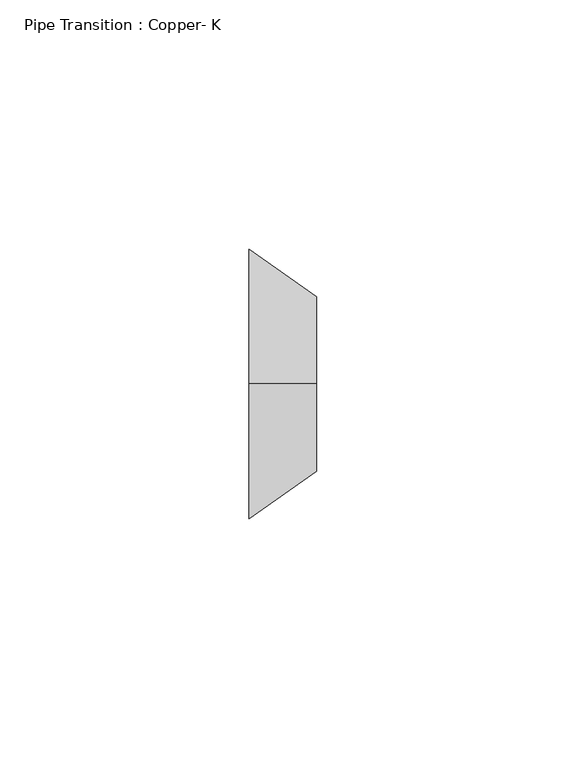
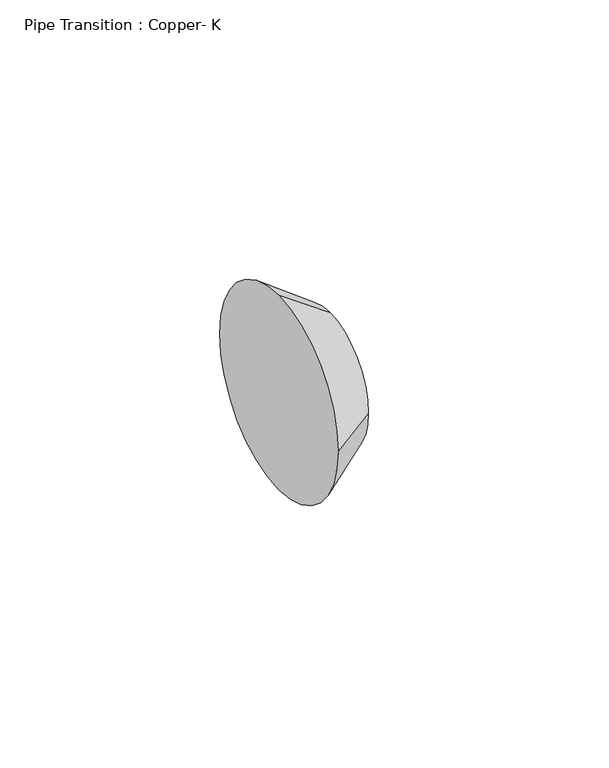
"""IFC4 building model written with IfcOpenShell, lengths in millimetres: pipe fitting geometry, Pipe Transition : Copper- K."""

from ifc_helpers import new_model, si_unit, frame, origin, place, context, project, spatial, circle_curve, source, transform, mapped, element, save
from ifc_brep_helpers import plane_surface, spline_surface, advanced_brep


def pipe_transition_copper_k_dc0697be(model_context):
    return source(origin(), model_context, "Body", "AdvancedBrep", [
        advanced_brep(
        [(13.49375, 0.0, 17.5121146), (13.49375, -17.4625, 0.0496146), (13.49375, 0.0, -17.4128854), (13.49375, 17.4625, 0.0496146), (0.0, 0.0, 26.9875), (0.0, 26.9875, 0.0), (0.0, 0.0, -26.9875), (0.0, -26.9875, 0.0)],
        [
            (0, 1, circle_curve(frame((13.49375, 0.0, 0.0496146), z_axis=(1.0, 0.0, 0.0), x_axis=(0.0, 1.0, 0.0)), 17.4625)),
            (1, 2, circle_curve(frame((13.49375, 0.0, 0.0496146), z_axis=(1.0, 0.0, 0.0), x_axis=(0.0, 1.0, 0.0)), 17.4625)),
            (2, 3, circle_curve(frame((13.49375, 0.0, 0.0496146), z_axis=(1.0, 0.0, 0.0), x_axis=(0.0, 1.0, 0.0)), 17.4625)),
            (3, 0, circle_curve(frame((13.49375, 0.0, 0.0496146), z_axis=(1.0, 0.0, 0.0), x_axis=(0.0, 1.0, 0.0)), 17.4625)),
            (4, 5, circle_curve(frame((0.0, 0.0, 0.0), z_axis=(-1.0, 0.0, 0.0), x_axis=(0.0, 1.0, 0.0)), 26.9875)),
            (5, 6, circle_curve(frame((0.0, 0.0, 0.0), z_axis=(-1.0, 0.0, 0.0), x_axis=(0.0, 1.0, 0.0)), 26.9875)),
            (6, 7, circle_curve(frame((0.0, 0.0, 0.0), z_axis=(-1.0, 0.0, 0.0), x_axis=(0.0, 1.0, 0.0)), 26.9875)),
            (7, 4, circle_curve(frame((0.0, 0.0, 0.0), z_axis=(-1.0, 0.0, 0.0), x_axis=(0.0, 1.0, 0.0)), 26.9875)),
            (7, 1),
            (0, 4),
            (6, 2),
            (5, 3),
        ],
        [
            plane_surface(frame((13.49375, 0.0, 0.0496146), z_axis=(1.0, 0.0, 0.0), x_axis=(0.0, -1.0, 0.0))),
            plane_surface(frame((0.0, 0.0, 0.0), z_axis=(-1.0, 0.0, 0.0), x_axis=(0.0, -1.0, 0.0))),
            spline_surface(2, 1, [[(0.0, 0.0, 26.9875), (13.49375, 0.0, 17.5121146)], [(0.0, -26.9875, 26.9875), (13.49375, -17.4625, 17.5121146)], [(0.0, -26.9875, 0.0), (13.49375, -17.4625, 0.0496146)]], [3, 3], [2, 2], [0.0, 1.0], [0.0, 1.0], weights=[[1.0, 1.0], [0.7071067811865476, 0.7071067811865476], [1.0, 1.0]]),
            spline_surface(2, 1, [[(0.0, -26.9875, 0.0), (13.49375, -17.4625, 0.0496146)], [(0.0, -26.9875, -26.9875), (13.49375, -17.4625, -17.412885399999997)], [(0.0, 0.0, -26.9875), (13.49375, 0.0, -17.4128854)]], [3, 3], [2, 2], [0.0, 1.0], [0.0, 1.0], weights=[[1.0, 1.0], [0.7071067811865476, 0.7071067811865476], [1.0, 1.0]]),
            spline_surface(2, 1, [[(0.0, 0.0, -26.9875), (13.49375, 0.0, -17.4128854)], [(0.0, 26.9875, -26.9875), (13.49375, 17.462500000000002, -17.4128854)], [(0.0, 26.9875, 0.0), (13.49375, 17.4625, 0.0496146)]], [3, 3], [2, 2], [0.0, 1.0], [0.0, 1.0], weights=[[1.0, 1.0], [0.7071067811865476, 0.7071067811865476], [1.0, 1.0]]),
            spline_surface(2, 1, [[(0.0, 26.9875, 0.0), (13.49375, 17.4625, 0.0496146)], [(0.0, 26.9875, 26.9875), (13.49375, 17.4625, 17.5121146)], [(0.0, 0.0, 26.9875), (13.49375, 0.0, 17.5121146)]], [3, 3], [2, 2], [0.0, 1.0], [0.0, 1.0], weights=[[1.0, 1.0], [0.7071067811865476, 0.7071067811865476], [1.0, 1.0]]),
        ],
        [
            (0, [[1, 2, 3, 4]]),
            (1, [[5, 6, 7, 8]]),
            (2, [[-8, 9, -1, 10]]),
            (3, [[-7, 11, -2, -9]]),
            (4, [[-6, 12, -3, -11]]),
            (5, [[-5, -10, -4, -12]]),
        ],
    ),
        advanced_brep(
        [(13.49375, 0.0, 17.5121146), (13.49375, -17.4625, 0.0496146), (13.49375, 0.0, -17.4128854), (13.49375, 17.4625, 0.0496146), (0.0, 0.0, 26.9875), (0.0, 26.9875, 0.0), (0.0, 0.0, -26.9875), (0.0, -26.9875, 0.0)],
        [
            (0, 1, circle_curve(frame((13.49375, 0.0, 0.0496146), z_axis=(1.0, 0.0, 0.0), x_axis=(0.0, 1.0, 0.0)), 17.4625)),
            (1, 2, circle_curve(frame((13.49375, 0.0, 0.0496146), z_axis=(1.0, 0.0, 0.0), x_axis=(0.0, 1.0, 0.0)), 17.4625)),
            (2, 3, circle_curve(frame((13.49375, 0.0, 0.0496146), z_axis=(1.0, 0.0, 0.0), x_axis=(0.0, 1.0, 0.0)), 17.4625)),
            (3, 0, circle_curve(frame((13.49375, 0.0, 0.0496146), z_axis=(1.0, 0.0, 0.0), x_axis=(0.0, 1.0, 0.0)), 17.4625)),
            (4, 5, circle_curve(frame((0.0, 0.0, 0.0), z_axis=(-1.0, 0.0, 0.0), x_axis=(0.0, 1.0, 0.0)), 26.9875)),
            (5, 6, circle_curve(frame((0.0, 0.0, 0.0), z_axis=(-1.0, 0.0, 0.0), x_axis=(0.0, 1.0, 0.0)), 26.9875)),
            (6, 7, circle_curve(frame((0.0, 0.0, 0.0), z_axis=(-1.0, 0.0, 0.0), x_axis=(0.0, 1.0, 0.0)), 26.9875)),
            (7, 4, circle_curve(frame((0.0, 0.0, 0.0), z_axis=(-1.0, 0.0, 0.0), x_axis=(0.0, 1.0, 0.0)), 26.9875)),
            (7, 1),
            (0, 4),
            (6, 2),
            (5, 3),
        ],
        [
            plane_surface(frame((13.49375, 0.0, 0.0496146), z_axis=(1.0, 0.0, 0.0), x_axis=(0.0, -1.0, 0.0))),
            plane_surface(frame((0.0, 0.0, 0.0), z_axis=(-1.0, 0.0, 0.0), x_axis=(0.0, -1.0, 0.0))),
            spline_surface(2, 1, [[(0.0, 0.0, 26.9875), (13.49375, 0.0, 17.5121146)], [(0.0, -26.9875, 26.9875), (13.49375, -17.4625, 17.5121146)], [(0.0, -26.9875, 0.0), (13.49375, -17.4625, 0.0496146)]], [3, 3], [2, 2], [0.0, 1.0], [0.0, 1.0], weights=[[1.0, 1.0], [0.7071067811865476, 0.7071067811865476], [1.0, 1.0]]),
            spline_surface(2, 1, [[(0.0, -26.9875, 0.0), (13.49375, -17.4625, 0.0496146)], [(0.0, -26.9875, -26.9875), (13.49375, -17.4625, -17.412885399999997)], [(0.0, 0.0, -26.9875), (13.49375, 0.0, -17.4128854)]], [3, 3], [2, 2], [0.0, 1.0], [0.0, 1.0], weights=[[1.0, 1.0], [0.7071067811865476, 0.7071067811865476], [1.0, 1.0]]),
            spline_surface(2, 1, [[(0.0, 0.0, -26.9875), (13.49375, 0.0, -17.4128854)], [(0.0, 26.9875, -26.9875), (13.49375, 17.462500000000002, -17.4128854)], [(0.0, 26.9875, 0.0), (13.49375, 17.4625, 0.0496146)]], [3, 3], [2, 2], [0.0, 1.0], [0.0, 1.0], weights=[[1.0, 1.0], [0.7071067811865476, 0.7071067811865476], [1.0, 1.0]]),
            spline_surface(2, 1, [[(0.0, 26.9875, 0.0), (13.49375, 17.4625, 0.0496146)], [(0.0, 26.9875, 26.9875), (13.49375, 17.4625, 17.5121146)], [(0.0, 0.0, 26.9875), (13.49375, 0.0, 17.5121146)]], [3, 3], [2, 2], [0.0, 1.0], [0.0, 1.0], weights=[[1.0, 1.0], [0.7071067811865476, 0.7071067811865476], [1.0, 1.0]]),
        ],
        [
            (0, [[1, 2, 3, 4]]),
            (1, [[5, 6, 7, 8]]),
            (2, [[-8, 9, -1, 10]]),
            (3, [[-7, 11, -2, -9]]),
            (4, [[-6, 12, -3, -11]]),
            (5, [[-5, -10, -4, -12]]),
        ],
    ),
    ])


if __name__ == "__main__":
    model = new_model("IFC4")
    model_context = context("Model", 3, world=origin())
    ifc_project = project(units=[si_unit("LENGTHUNIT", "METRE", prefix="MILLI")], contexts=[model_context])
    site = spatial("IfcSite", under=ifc_project)
    building = spatial("IfcBuilding", under=site)
    placement = place(None, origin())
    pipe_transition_copper_k_shape = pipe_transition_copper_k_dc0697be(model_context)
    element("IfcPipeFitting", 1, ObjectType="Pipe Transition : Copper- K", at=placement, inside=building, context=model_context, shape_type="MappedRepresentation", body=[
        mapped(pipe_transition_copper_k_shape, transform((0.0, 0.0, 0.0), x_axis=(1.0, 0.0, 0.0), y_axis=(0.0, 1.0, 0.0), z_axis=(0.0, 0.0, 1.0))),
    ])
    save(model, "model.ifc")
